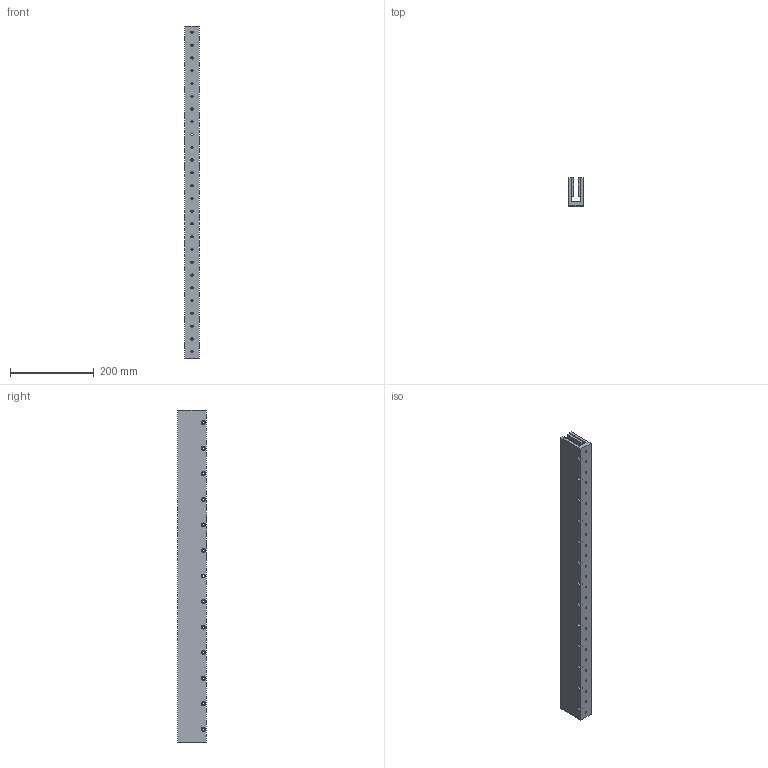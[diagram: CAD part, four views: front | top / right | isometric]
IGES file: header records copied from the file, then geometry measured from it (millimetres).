
Global section: file name: No Iges File Name specified; native system: Autodesk Inventor 2012; preprocessor: AutoDesk Inventor Iges Exporter R2012; author: je17857; date: 20120511.155317; units: inch
Bounding box: 34.29 x 67.31 x 792.23 mm (x, y, z)
Volume: 1167869.4 mm3; surface area: 305675.1 mm2
Topology: 1 solids, 1 shells, 387 faces, 895 edges, 601 vertices
Faces by surface type: plane 309, revolution 78
